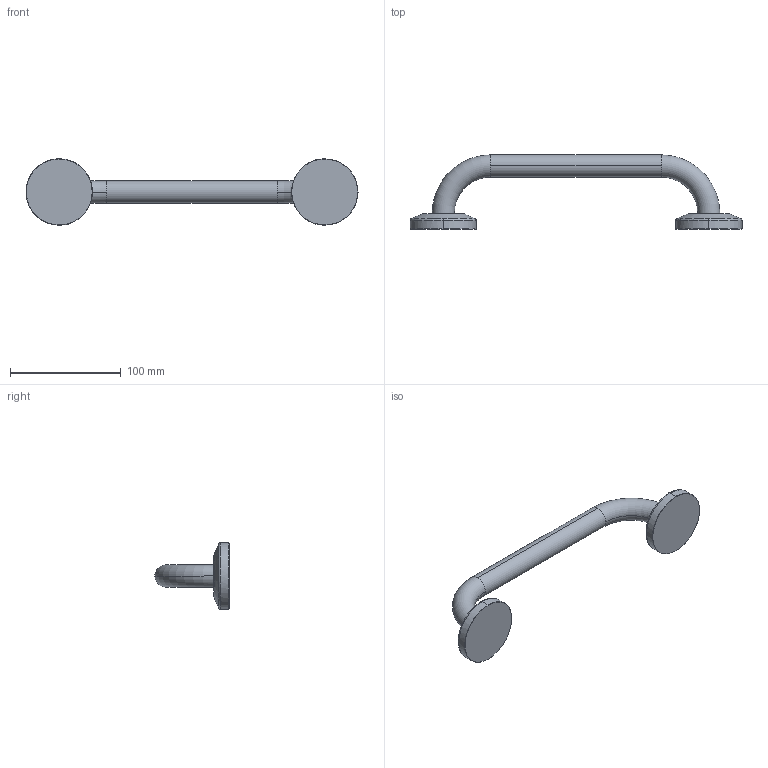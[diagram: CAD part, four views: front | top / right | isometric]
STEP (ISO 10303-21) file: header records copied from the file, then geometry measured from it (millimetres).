
FILE_DESCRIPTION(('THIS FILE CONTAINS SOME STEP INSTANCES'),'1');
FILE_NAME('sta_029.stp','2015-12-01T 9:19:00',('UNDEFINED'),('UNDEFINED'),'T-FLEX CAD STEP converter','T-FLEX CAD','');
FILE_SCHEMA(('CONFIG_CONTROL_DESIGN'));
Length unit declared in the file: metre
Products named in the file (1): 3D 鐨飹懤艜_21
Bounding box: 300 x 67 x 60 mm (x, y, z)
Volume: 160360.6 mm3; surface area: 32373.8 mm2
Topology: 1 solids, 1 shells, 34 faces, 74 edges, 44 vertices
Faces by surface type: torus 12, cone 8, cylinder 6, bspline 4, plane 4
Entity records: 2700 total; most frequent: CARTESIAN_POINT 2071, ORIENTED_EDGE 148, DIRECTION 102, EDGE_CURVE 74, AXIS2_PLACEMENT_3D 44, VERTEX_POINT 44, EDGE_LOOP 36, ADVANCED_FACE 34
